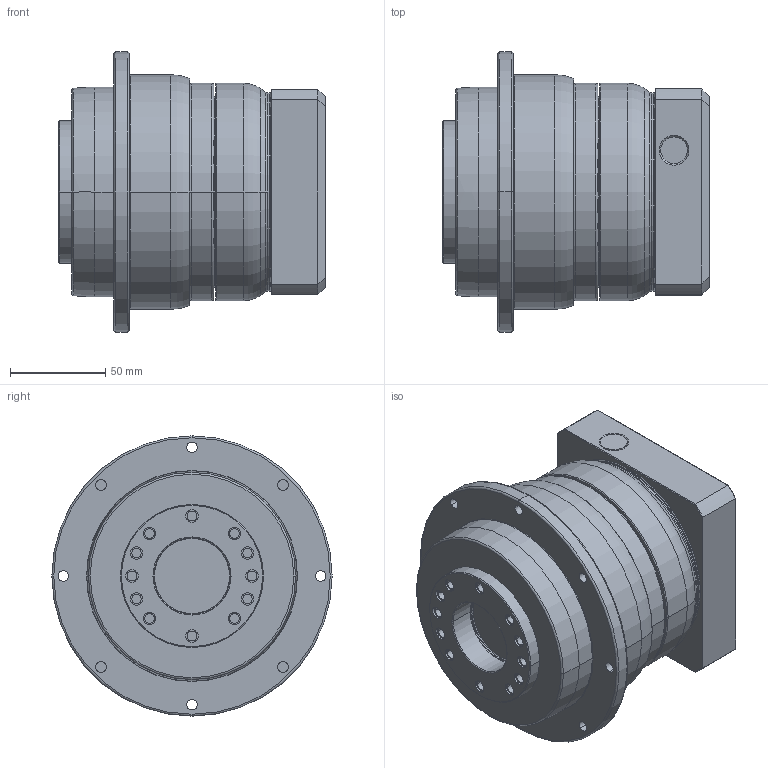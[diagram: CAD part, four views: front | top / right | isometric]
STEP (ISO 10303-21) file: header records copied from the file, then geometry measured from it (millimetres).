
FILE_DESCRIPTION((''),'2;1');
FILE_NAME('PD110_1ST_28-P0411600101_ASM','2016-06-02T',('d01943'),(''),'PRO/ENGINEER BY PARAMETRIC TECHNOLOGY CORPORATION, 2008410','PRO/ENGINEER BY PARAMETRIC TECHNOLOGY CORPORATION, 2008410','');
FILE_SCHEMA(('CONFIG_CONTROL_DESIGN'));
Length unit declared in the file: millimetre
Products named in the file (8): P1355400001; P0367400001; P0274400001; P1324400201; P0411600101; P0503600008; P0941402001; PD110_1ST_28-P0411600101_ASM
Assembly tree (7 placements, depth 2):
  PD110_1ST_28-P0411600101_ASM
    P1355400001
    P0367400001
    P0274400001
    P1324400201
    P0411600101
    P0503600008
    P0941402001
Bounding box: 139.93 x 147 x 147 mm (x, y, z)
Volume: 1352937.5 mm3; surface area: 211459.3 mm2
Topology: 7 solids, 7 shells, 411 faces, 959 edges, 582 vertices
Faces by surface type: cylinder 164, cone 90, plane 73, torus 70, bspline 14
Entity records: 16398 total; most frequent: CARTESIAN_POINT 6621, DIRECTION 2189, ORIENTED_EDGE 1886, AXIS2_PLACEMENT_3D 943, EDGE_CURVE 943, VERTEX_POINT 582, CIRCLE 531, EDGE_LOOP 503
